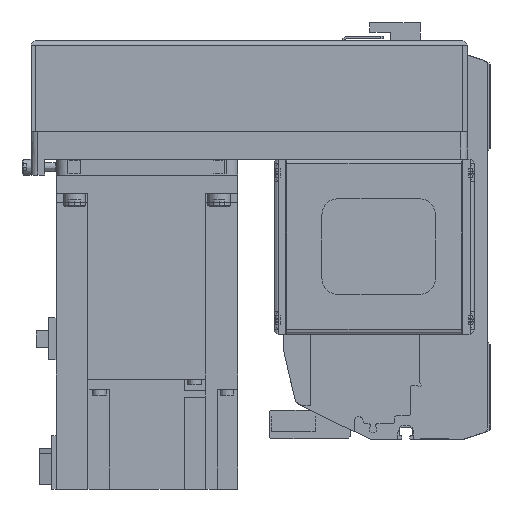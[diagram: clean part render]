
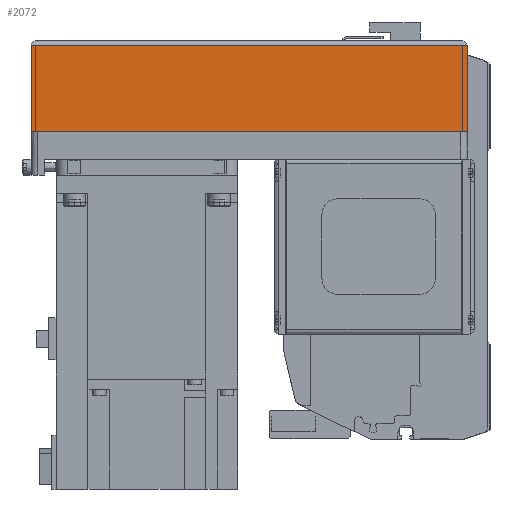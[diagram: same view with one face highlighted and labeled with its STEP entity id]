
A CAD part, left-side view. The second image highlights one B-rep face of the part: STEP entity #2072.
In plain terms, the highlighted planar face has unit normal (-1, 0, 0) as drawn and (0, 1, 0) by its records, which use the part's own axes.
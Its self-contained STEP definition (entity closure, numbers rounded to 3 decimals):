
#2072 = ADVANCED_FACE( '', ( #4953 ), #4954, .T. );
#4953 = FACE_OUTER_BOUND( '', #8819, .T. );
#4954 = PLANE( '', #8820 );
#8819 = EDGE_LOOP( '', ( #14797, #14798, #14799, #14800 ) );
#8820 = AXIS2_PLACEMENT_3D( '', #14801, #14802, #14803 );
#14797 = ORIENTED_EDGE( '', *, *, #23445, .F. );
#14798 = ORIENTED_EDGE( '', *, *, #22566, .F. );
#14799 = ORIENTED_EDGE( '', *, *, #21548, .T. );
#14800 = ORIENTED_EDGE( '', *, *, #22462, .T. );
#14801 = CARTESIAN_POINT( '', ( -192., 40., -50. ) );
#14802 = DIRECTION( '', ( 0., 1., 0. ) );
#14803 = DIRECTION( '', ( 0., 0., 1. ) );
#21548 = EDGE_CURVE( '', #25484, #25489, #25491, .T. );
#22462 = EDGE_CURVE( '', #25489, #25664, #27101, .T. );
#22566 = EDGE_CURVE( '', #25484, #27279, #27280, .T. );
#23445 = EDGE_CURVE( '', #27279, #25664, #28678, .T. );
#25484 = VERTEX_POINT( '', #31359 );
#25489 = VERTEX_POINT( '', #31366 );
#25491 = LINE( '', #31369, #31370 );
#25664 = VERTEX_POINT( '', #31688 );
#27101 = LINE( '', #33693, #33694 );
#27279 = VERTEX_POINT( '', #33938 );
#27280 = LINE( '', #33939, #33940 );
#28678 = LINE( '', #36177, #36178 );
#31359 = CARTESIAN_POINT( '', ( -192., 40., -50. ) );
#31366 = CARTESIAN_POINT( '', ( -192., 40., -12.1 ) );
#31369 = CARTESIAN_POINT( '', ( -192., 40., -50. ) );
#31370 = VECTOR( '', #40547, 1000. );
#31688 = CARTESIAN_POINT( '', ( 0., 40., -12.1 ) );
#33693 = CARTESIAN_POINT( '', ( -192., 40., -12.1 ) );
#33694 = VECTOR( '', #41794, 1000. );
#33938 = CARTESIAN_POINT( '', ( 0., 40., -50. ) );
#33939 = CARTESIAN_POINT( '', ( -192., 40., -50. ) );
#33940 = VECTOR( '', #41926, 1000. );
#36177 = CARTESIAN_POINT( '', ( 0., 40., -50. ) );
#36178 = VECTOR( '', #43032, 1000. );
#40547 = DIRECTION( '', ( 0., 0., 1. ) );
#41794 = DIRECTION( '', ( 1., 0., 0. ) );
#41926 = DIRECTION( '', ( 1., 0., 0. ) );
#43032 = DIRECTION( '', ( 0., 0., 1. ) );
